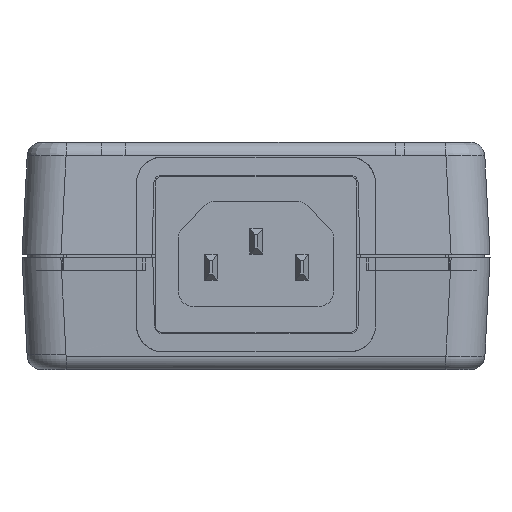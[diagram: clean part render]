
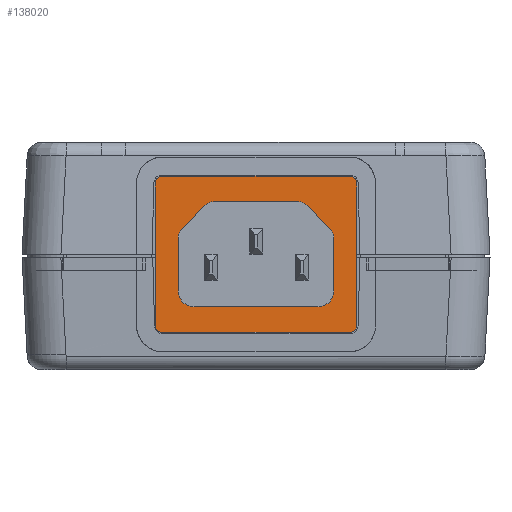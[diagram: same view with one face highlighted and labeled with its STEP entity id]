
A CAD part, left-side view. The second image highlights one B-rep face of the part: STEP entity #138020.
In plain terms, the highlighted planar face has unit normal (-1, 0, 0) as drawn and (0, 1, 0) by its records, which use the part's own axes.
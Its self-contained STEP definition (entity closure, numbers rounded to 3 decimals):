
#134400=CARTESIAN_POINT('',(-14.939,92.989,
10.));
#134410=DIRECTION('',(0.,0.,1.));
#134420=VECTOR('',#134410,1.);
#134430=LINE('',#134400,#134420);
#134440=CARTESIAN_POINT('',(-14.939,92.989,
-1.));
#134450=VERTEX_POINT('',#134440);
#134460=CARTESIAN_POINT('',(-14.939,92.989,
21.));
#134470=VERTEX_POINT('',#134460);
#134480=EDGE_CURVE('',#134450,#134470,#134430,.T.);
#136320=CARTESIAN_POINT('',(0.561,92.989,
10.));
#136330=DIRECTION('',(0.,1.,0.));
#136340=DIRECTION('',(-1.,0.,0.));
#136350=AXIS2_PLACEMENT_3D('',#136320,#136330,#136340);
#136360=PLANE('',#136350);
#136370=CARTESIAN_POINT('',(-6.043,92.989,
16.3));
#136380=DIRECTION('',(0.,-1.,0.));
#136390=DIRECTION('',(0.,0.,1.));
#136400=AXIS2_PLACEMENT_3D('',#136370,#136380,#136390);
#136410=CIRCLE('',#136400,1.8);
#136420=CARTESIAN_POINT('',(-6.043,92.989,
18.1));
#136430=VERTEX_POINT('',#136420);
#136440=CARTESIAN_POINT('',(-7.338,92.989,
17.55));
#136450=VERTEX_POINT('',#136440);
#136460=EDGE_CURVE('',#136430,#136450,#136410,.T.);
#136470=ORIENTED_EDGE('',*,*,#136460,.T.);
#136480=CARTESIAN_POINT('',(0.561,92.989,
18.1));
#136490=DIRECTION('',(1.,0.,0.));
#136500=VECTOR('',#136490,1.);
#136510=LINE('',#136480,#136500);
#136520=CARTESIAN_POINT('',(7.165,92.989,
18.1));
#136530=VERTEX_POINT('',#136520);
#136540=EDGE_CURVE('',#136430,#136530,#136510,.T.);
#136550=ORIENTED_EDGE('',*,*,#136540,.F.);
#136560=CARTESIAN_POINT('',(7.165,92.989,
16.3));
#136570=DIRECTION('',(0.,-1.,0.));
#136580=DIRECTION('',(0.719,0.,
0.695));
#136590=AXIS2_PLACEMENT_3D('',#136560,#136570,#136580);
#136600=CIRCLE('',#136590,1.8);
#136610=CARTESIAN_POINT('',(8.46,92.989,
17.55));
#136620=VERTEX_POINT('',#136610);
#136630=EDGE_CURVE('',#136620,#136530,#136600,.T.);
#136640=ORIENTED_EDGE('',*,*,#136630,.T.);
#136650=CARTESIAN_POINT('',(15.751,92.989,
10.));
#136660=DIRECTION('',(0.695,0.,
-0.719));
#136670=VECTOR('',#136660,1.);
#136680=LINE('',#136650,#136670);
#136690=CARTESIAN_POINT('',(12.056,92.989,
13.827));
#136700=VERTEX_POINT('',#136690);
#136710=EDGE_CURVE('',#136620,#136700,#136680,.T.);
#136720=ORIENTED_EDGE('',*,*,#136710,.F.);
#136730=CARTESIAN_POINT('',(10.761,92.989,
12.576));
#136740=DIRECTION('',(0.,1.,0.));
#136750=DIRECTION('',(-1.,0.,0.));
#136760=AXIS2_PLACEMENT_3D('',#136730,#136740,#136750);
#136770=CIRCLE('',#136760,1.8);
#136780=CARTESIAN_POINT('',(12.561,92.989,
12.576));
#136790=VERTEX_POINT('',#136780);
#136800=EDGE_CURVE('',#136700,#136790,#136770,.T.);
#136810=ORIENTED_EDGE('',*,*,#136800,.F.);
#136820=CARTESIAN_POINT('',(12.561,92.989,
10.));
#136830=DIRECTION('',(0.,0.,-1.));
#136840=VECTOR('',#136830,1.);
#136850=LINE('',#136820,#136840);
#136860=CARTESIAN_POINT('',(12.561,92.989,
4.4));
#136870=VERTEX_POINT('',#136860);
#136880=EDGE_CURVE('',#136790,#136870,#136850,.T.);
#136890=ORIENTED_EDGE('',*,*,#136880,.F.);
#136900=CARTESIAN_POINT('',(10.061,92.989,
4.4));
#136910=DIRECTION('',(0.,1.,0.));
#136920=DIRECTION('',(-1.,0.,0.));
#136930=AXIS2_PLACEMENT_3D('',#136900,#136910,#136920);
#136940=CIRCLE('',#136930,2.5);
#136950=CARTESIAN_POINT('',(10.061,92.989,
1.9));
#136960=VERTEX_POINT('',#136950);
#136970=EDGE_CURVE('',#136870,#136960,#136940,.T.);
#136980=ORIENTED_EDGE('',*,*,#136970,.F.);
#136990=CARTESIAN_POINT('',(0.561,92.989,
1.9));
#137000=DIRECTION('',(-1.,0.,0.));
#137010=VECTOR('',#137000,1.);
#137020=LINE('',#136990,#137010);
#137030=CARTESIAN_POINT('',(-8.939,92.989,
1.9));
#137040=VERTEX_POINT('',#137030);
#137050=EDGE_CURVE('',#136960,#137040,#137020,.T.);
#137060=ORIENTED_EDGE('',*,*,#137050,.F.);
#137070=CARTESIAN_POINT('',(-8.939,92.989,
4.4));
#137080=DIRECTION('',(0.,1.,0.));
#137090=DIRECTION('',(-1.,0.,0.));
#137100=AXIS2_PLACEMENT_3D('',#137070,#137080,#137090);
#137110=CIRCLE('',#137100,2.5);
#137120=CARTESIAN_POINT('',(-11.439,92.989,
4.4));
#137130=VERTEX_POINT('',#137120);
#137140=EDGE_CURVE('',#137040,#137130,#137110,.T.);
#137150=ORIENTED_EDGE('',*,*,#137140,.F.);
#137160=CARTESIAN_POINT('',(-11.439,92.989,
10.));
#137170=DIRECTION('',(0.,0.,1.));
#137180=VECTOR('',#137170,1.);
#137190=LINE('',#137160,#137180);
#137200=CARTESIAN_POINT('',(-11.439,92.989,
12.576));
#137210=VERTEX_POINT('',#137200);
#137220=EDGE_CURVE('',#137130,#137210,#137190,.T.);
#137230=ORIENTED_EDGE('',*,*,#137220,.F.);
#137240=CARTESIAN_POINT('',(-9.639,92.989,
12.576));
#137250=DIRECTION('',(0.,-1.,0.));
#137260=DIRECTION('',(1.,0.,0.));
#137270=AXIS2_PLACEMENT_3D('',#137240,#137250,#137260);
#137280=CIRCLE('',#137270,1.8);
#137290=CARTESIAN_POINT('',(-10.934,92.989,
13.827));
#137300=VERTEX_POINT('',#137290);
#137310=EDGE_CURVE('',#137300,#137210,#137280,.T.);
#137320=ORIENTED_EDGE('',*,*,#137310,.T.);
#137330=CARTESIAN_POINT('',(-14.629,92.989,
10.));
#137340=DIRECTION('',(0.695,0.,
0.719));
#137350=VECTOR('',#137340,1.);
#137360=LINE('',#137330,#137350);
#137370=EDGE_CURVE('',#137300,#136450,#137360,.T.);
#137380=ORIENTED_EDGE('',*,*,#137370,.F.);
#137390=EDGE_LOOP('',(#137380,#137320,#137230,#137150,#137060,#136980,
#136890,#136810,#136720,#136640,#136550,#136470));
#137400=FACE_BOUND('',#137390,.T.);
#137410=CARTESIAN_POINT('',(15.061,92.989,
21.));
#137420=DIRECTION('',(0.,1.,0.));
#137430=DIRECTION('',(0.,0.,1.));
#137440=AXIS2_PLACEMENT_3D('',#137410,#137420,#137430);
#137450=CIRCLE('',#137440,1.);
#137460=CARTESIAN_POINT('',(15.061,92.989,
22.));
#137470=VERTEX_POINT('',#137460);
#137480=CARTESIAN_POINT('',(16.061,92.989,
21.));
#137490=VERTEX_POINT('',#137480);
#137500=EDGE_CURVE('',#137470,#137490,#137450,.T.);
#137510=ORIENTED_EDGE('',*,*,#137500,.T.);
#137520=CARTESIAN_POINT('',(0.561,92.989,
22.));
#137530=DIRECTION('',(-1.,0.,0.));
#137540=VECTOR('',#137530,1.);
#137550=LINE('',#137520,#137540);
#137560=CARTESIAN_POINT('',(-13.939,92.989,
22.));
#137570=VERTEX_POINT('',#137560);
#137580=EDGE_CURVE('',#137470,#137570,#137550,.T.);
#137590=ORIENTED_EDGE('',*,*,#137580,.F.);
#137600=CARTESIAN_POINT('',(-13.939,92.989,
21.));
#137610=DIRECTION('',(0.,1.,0.));
#137620=DIRECTION('',(0.,0.,1.));
#137630=AXIS2_PLACEMENT_3D('',#137600,#137610,#137620);
#137640=CIRCLE('',#137630,1.);
#137650=EDGE_CURVE('',#134470,#137570,#137640,.T.);
#137660=ORIENTED_EDGE('',*,*,#137650,.T.);
#137670=ORIENTED_EDGE('',*,*,#134480,.T.);
#137680=CARTESIAN_POINT('',(-13.939,92.989,
-1.));
#137690=DIRECTION('',(0.,1.,0.));
#137700=DIRECTION('',(0.,0.,1.));
#137710=AXIS2_PLACEMENT_3D('',#137680,#137690,#137700);
#137720=CIRCLE('',#137710,1.);
#137730=CARTESIAN_POINT('',(-13.939,92.989,
-2.));
#137740=VERTEX_POINT('',#137730);
#137750=EDGE_CURVE('',#137740,#134450,#137720,.T.);
#137760=ORIENTED_EDGE('',*,*,#137750,.T.);
#137770=CARTESIAN_POINT('',(0.561,92.989,
-2.));
#137780=DIRECTION('',(1.,0.,0.));
#137790=VECTOR('',#137780,1.);
#137800=LINE('',#137770,#137790);
#137810=CARTESIAN_POINT('',(15.061,92.989,
-2.));
#137820=VERTEX_POINT('',#137810);
#137830=EDGE_CURVE('',#137740,#137820,#137800,.T.);
#137840=ORIENTED_EDGE('',*,*,#137830,.F.);
#137850=CARTESIAN_POINT('',(15.061,92.989,
-1.));
#137860=DIRECTION('',(0.,1.,0.));
#137870=DIRECTION('',(0.,0.,1.));
#137880=AXIS2_PLACEMENT_3D('',#137850,#137860,#137870);
#137890=CIRCLE('',#137880,1.);
#137900=CARTESIAN_POINT('',(16.061,92.989,
-1.));
#137910=VERTEX_POINT('',#137900);
#137920=EDGE_CURVE('',#137910,#137820,#137890,.T.);
#137930=ORIENTED_EDGE('',*,*,#137920,.T.);
#137940=CARTESIAN_POINT('',(16.061,92.989,
10.));
#137950=DIRECTION('',(0.,0.,-1.));
#137960=VECTOR('',#137950,1.);
#137970=LINE('',#137940,#137960);
#137980=EDGE_CURVE('',#137490,#137910,#137970,.T.);
#137990=ORIENTED_EDGE('',*,*,#137980,.T.);
#138000=EDGE_LOOP('',(#137990,#137930,#137840,#137760,#137670,#137660,
#137590,#137510));
#138010=FACE_OUTER_BOUND('',#138000,.T.);
#138020=ADVANCED_FACE('',(#137400,#138010),#136360,.T.);
